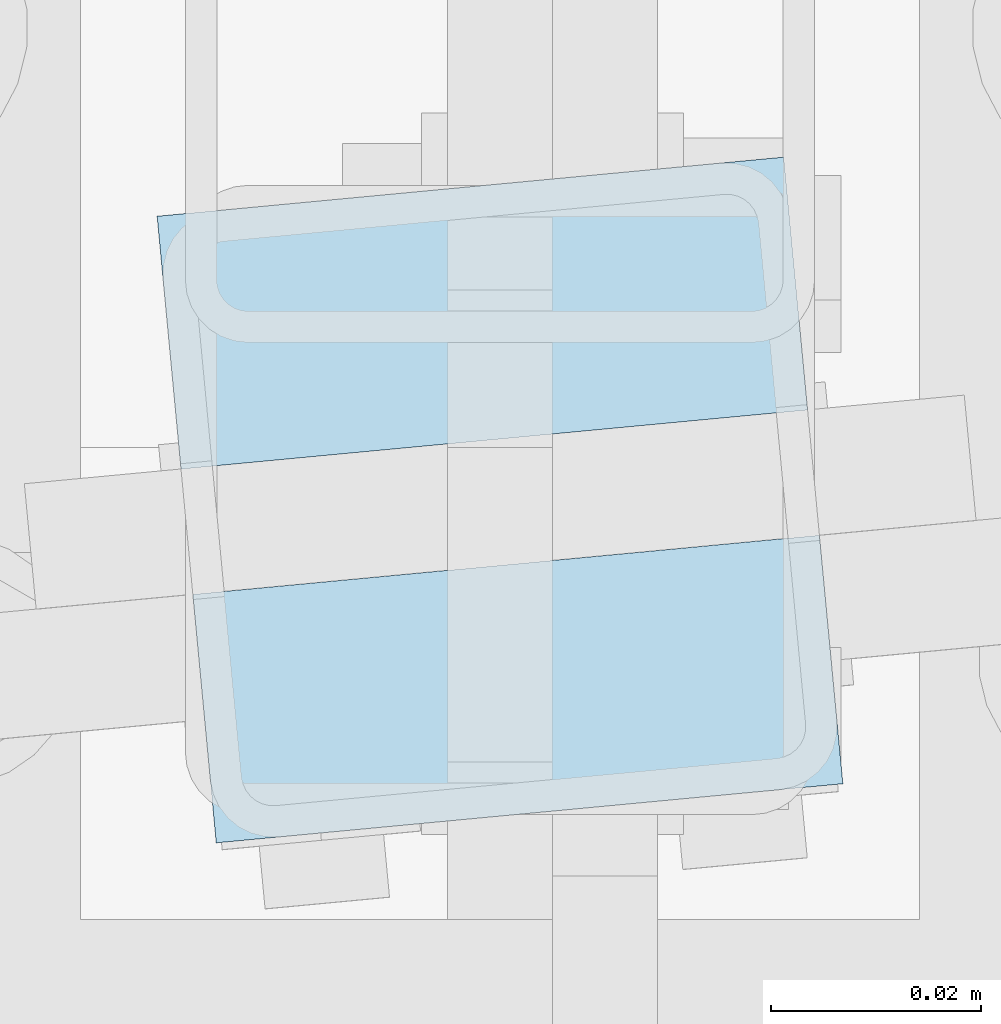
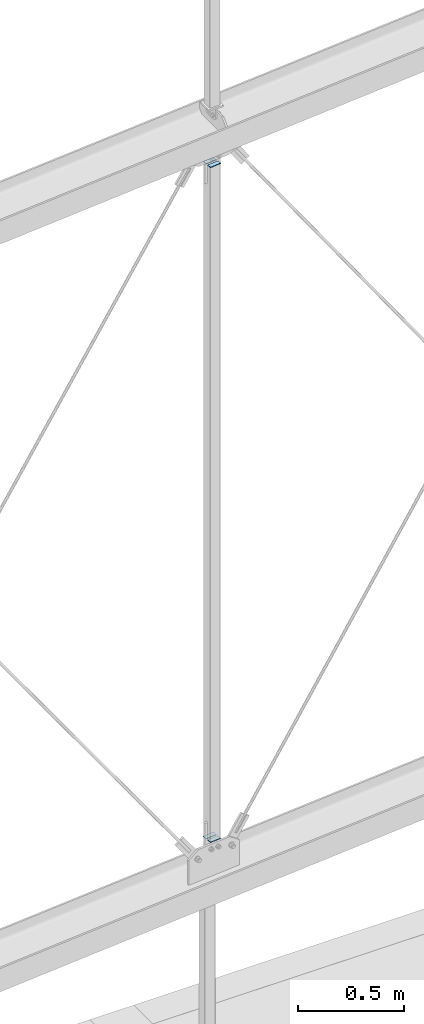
# One storey, part 214 of 271: 4 plates, 1 element without a shape of its own.
"""IFC2X3 building model written with IfcOpenShell, lengths in millimetres."""

from ifc_helpers import new_model, si_unit, frame, origin_with_axes, place, context, subcontext, project, spatial, polyline, outline, extrude, material, type_object, element, aggregate, save


model = new_model("IFC2X3")

# Units and contexts
model_context = context("Model", 3, precision=1e-05, world=origin_with_axes())
body_context = subcontext(model_context, "Body", "Model", "MODEL_VIEW")
ifc_project = project(units=[si_unit("LENGTHUNIT", "METRE", prefix="MILLI"), si_unit("AREAUNIT", "SQUARE_METRE"), si_unit("VOLUMEUNIT", "CUBIC_METRE"), si_unit("MASSUNIT", "GRAM", prefix="KILO"), si_unit("TIMEUNIT", "SECOND"), si_unit("PLANEANGLEUNIT", "RADIAN"), si_unit("SOLIDANGLEUNIT", "STERADIAN"), si_unit("THERMODYNAMICTEMPERATUREUNIT", "DEGREE_CELSIUS"), si_unit("LUMINOUSINTENSITYUNIT", "LUMEN")], contexts=[model_context])

# Site, building, storey
site_placement = place(None, origin_with_axes())
site = spatial("IfcSite", under=ifc_project, at=site_placement, Name="Undefined", CompositionType="ELEMENT")
building_placement = place(site_placement, origin_with_axes())
building = spatial("IfcBuilding", under=site, at=building_placement, Name="Undefined", CompositionType="ELEMENT")
storey_placement = place(building_placement, origin_with_axes())
storey = spatial("IfcBuildingStorey", under=building, at=storey_placement, Name="Undefined", CompositionType="ELEMENT", Elevation=0.0)

# Assembly, plates
assembly_placement = place(storey_placement, origin_with_axes())
assembly = element("IfcElementAssembly", 1, at=assembly_placement, inside=storey, AssemblyPlace="NOTDEFINED", PredefinedType="RIGID_FRAME")
ifc_material = material(Name="STEEL/S355JR")
plate_type = type_object("IfcPlateType", Name="BL4*24", PredefinedType="NOTDEFINED")
plate_1_placement = place(assembly_placement, frame((9495.69023154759, 4032.3750164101, 1574.66148972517), z_axis=(0.0, 0.0, 1.0), x_axis=(0.0939225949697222, -0.995579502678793, 0.0)))
plate_1 = element("IfcPlate", 2, at=plate_1_placement, type_object=plate_type, material=ifc_material, Name="BLACHA", ObjectType="BL4*24", context=body_context, shape_type="SweptSolid", body=[
    extrude(outline(polyline([(0.0, 0.0), (24.2147998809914, 1.36424205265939e-12), (24.2147998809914, 60.0007209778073), (9.09494701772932e-13, 60.0007209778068), (0.0, 0.0)])), frame((0.0, 0.0, -2.0), z_axis=(0.0, 0.0, 1.0), x_axis=(1.0, 0.0, 0.0)), (0.0, 0.0, 1.0), 4.0),
])
plate_2_placement = place(assembly_placement, frame((9499.09161948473, 3996.32030442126, 1574.66148972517), z_axis=(0.0, 0.0, 1.0), x_axis=(0.0939225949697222, -0.995579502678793, 0.0)))
plate_2 = element("IfcPlate", 3, at=plate_2_placement, type_object=plate_type, material=ifc_material, Name="BLACHA", ObjectType="BL4*24", context=body_context, shape_type="SweptSolid", body=[
    extrude(outline(polyline([(0.0, 0.0), (23.7859210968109, 9.09494701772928e-13), (23.7859210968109, 60.0007209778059), (9.09494701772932e-13, 60.0007209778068), (0.0, 0.0)])), frame((0.0, 0.0, -2.0), z_axis=(0.0, 0.0, 1.0), x_axis=(1.0, 0.0, 0.0)), (0.0, 0.0, 1.0), 4.0),
])
plate_3_placement = place(assembly_placement, frame((9555.42571924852, 4038.01043980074, 5474.03738093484), z_axis=(0.0, 0.0, -1.0), x_axis=(0.0939225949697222, -0.995579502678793, 0.0)))
plate_3 = element("IfcPlate", 4, at=plate_3_placement, type_object=plate_type, material=ifc_material, Name="BLACHA", ObjectType="BL4*24", context=body_context, shape_type="SweptSolid", body=[
    extrude(outline(polyline([(0.0, 0.0), (24.1998863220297, -4.54747350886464e-13), (24.1998863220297, 60.0007209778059), (9.09494701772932e-13, 60.0007209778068), (0.0, 0.0)])), frame((0.0, 0.0, -2.0), z_axis=(0.0, 0.0, 1.0), x_axis=(1.0, 0.0, 0.0)), (0.0, 0.0, 1.0), 4.0),
])
plate_4_placement = place(assembly_placement, frame((9558.82570644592, 4001.97057565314, 5474.03738093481), z_axis=(0.0, 0.0, -1.0), x_axis=(0.0939225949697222, -0.995579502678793, 0.0)))
plate_4 = element("IfcPlate", 5, at=plate_4_placement, type_object=plate_type, material=ifc_material, Name="BLACHA", ObjectType="BL4*24", context=body_context, shape_type="SweptSolid", body=[
    extrude(outline(polyline([(0.0, 0.0), (23.8008346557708, 0.0), (23.8008346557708, 60.0007209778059), (9.09494701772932e-13, 60.0007209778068), (0.0, 0.0)])), frame((0.0, 0.0, -2.0), z_axis=(0.0, 0.0, 1.0), x_axis=(1.0, 0.0, 0.0)), (0.0, 0.0, 1.0), 4.0),
])
aggregate(assembly, [plate_1, plate_2, plate_3, plate_4])

save(model, "model.ifc")
